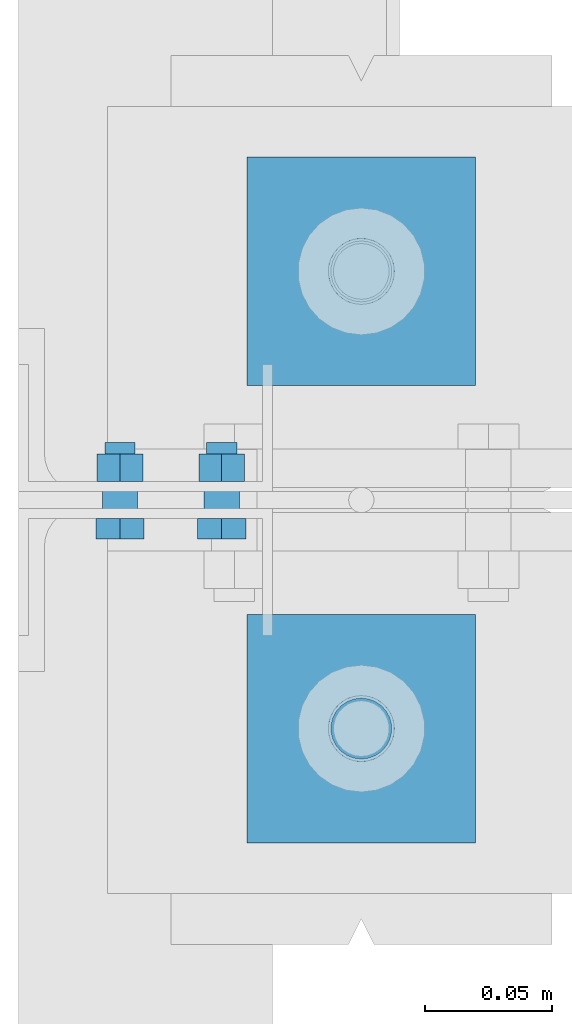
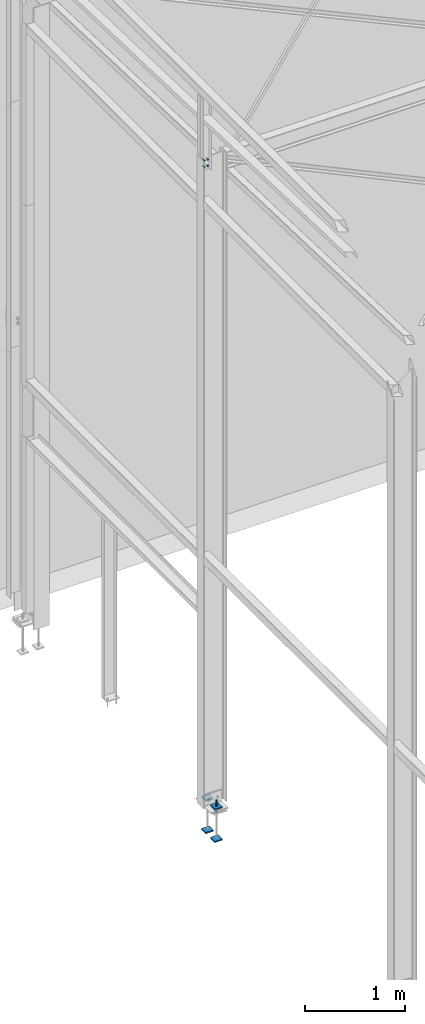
# One storey, part 73 of 123: 5 discrete accessories, 2 mechanical fasteners, 2 elements without a shape of their own.
"""IFC2X3 building model written with IfcOpenShell, lengths in millimetres."""

import ifcopenshell
import ifcopenshell.guid

model = None  # the IFC model being written
_history = None  # IfcOwnerHistory: only IFC2X3 demands one
_inside = {}  # id of a spatial element -> (the spatial element, [elements in it])
_under = {}  # id of a project, library or spatial element -> (it, [spatial elements below it])
_declared = {}  # id of a project -> (the project, [libraries it declares])
_typed = {}  # id of a type object -> (the type object, [elements of that type])
_made_of = {}  # id of a material, layer set ... -> (it, [elements and type objects made of it])


def new_model(schema):
    """Start an empty IFC model of exactly this schema.

    Asked for "IFC4X3", IfcOpenShell would pick the latest addendum, in which some entities
    have other attributes; the version numbers below select the first issue.
    IFC2X3 requires an IfcOwnerHistory on every rooted entity: one is made here for all.
    """
    global model, _history
    if schema == "IFC4X3":
        model = ifcopenshell.file(schema_version=(4, 3, 0, 0))
    else:
        model = ifcopenshell.file(schema=schema)
    _inside.clear()
    _under.clear()
    _declared.clear()
    _typed.clear()
    _made_of.clear()
    _history = None
    if model.schema == "IFC2X3":
        org = make("IfcOrganization", Name="unknown")
        user = make(
            "IfcPersonAndOrganization",
            ThePerson=make("IfcPerson", FamilyName="unknown"),
            TheOrganization=org,
        )
        app = make(
            "IfcApplication",
            ApplicationDeveloper=org,
            Version="unknown",
            ApplicationFullName="unknown",
            ApplicationIdentifier="unknown",
        )
        _history = make(
            "IfcOwnerHistory",
            OwningUser=user,
            OwningApplication=app,
            ChangeAction="ADDED",
            CreationDate=0,
        )
    return model


def make(cls, **values):
    """One entity of the class cls with the attributes given. An attribute that is None is left unset."""
    return model.create_entity(
        cls, **{name: value for name, value in values.items() if value is not None}
    )


def rooted(cls, **values):
    """An entity with a GlobalId (a new one), such as an element, a storey or a relation."""
    return make(cls, GlobalId=ifcopenshell.guid.new(), OwnerHistory=_history, **values)


def si_unit(unit_type, name, prefix=None):
    """IfcSIUnit, for example si_unit("LENGTHUNIT", "METRE", prefix="MILLI")."""
    return make("IfcSIUnit", UnitType=unit_type, Prefix=prefix, Name=name)


def assignment(units):
    """IfcUnitAssignment: the units of a project."""
    return None if units is None else make("IfcUnitAssignment", Units=units)


def point(xyz):
    """IfcCartesianPoint."""
    return None if xyz is None else make("IfcCartesianPoint", Coordinates=xyz)


def direction(xyz):
    """IfcDirection."""
    return None if xyz is None else make("IfcDirection", DirectionRatios=xyz)


def frame(location, z_axis=None, x_axis=None):
    """IfcAxis2Placement3D, a coordinate frame: its origin and axes. An axis left out is left unset."""
    return make(
        "IfcAxis2Placement3D",
        Location=point(location),
        Axis=direction(z_axis),
        RefDirection=direction(x_axis),
    )


def frame_2d(location, x_axis=None):
    """IfcAxis2Placement2D, a coordinate frame in the plane: its origin and x axis."""
    return make(
        "IfcAxis2Placement2D", Location=point(location), RefDirection=direction(x_axis)
    )


def origin_with_axes():
    """The frame at (0, 0, 0) with the z axis (0, 0, 1) and the x axis (1, 0, 0) written out."""
    return frame((0.0, 0.0, 0.0), z_axis=(0.0, 0.0, 1.0), x_axis=(1.0, 0.0, 0.0))


def origin_2d_with_axis():
    """The frame at (0, 0) in the plane with the x axis (1, 0) written out."""
    return frame_2d((0.0, 0.0), x_axis=(1.0, 0.0))


def place(relative_to, where):
    """IfcLocalPlacement: puts the frame where relative to a parent placement (None: the world)."""
    return make(
        "IfcLocalPlacement", PlacementRelTo=relative_to, RelativePlacement=where
    )


def context(
    kind, dimensions, precision=None, world=None, true_north=None, identifier=None
):
    """IfcGeometricRepresentationContext, for example the 3D "Model" context."""
    return make(
        "IfcGeometricRepresentationContext",
        ContextIdentifier=identifier,
        ContextType=kind,
        CoordinateSpaceDimension=dimensions,
        Precision=precision,
        WorldCoordinateSystem=world,
        TrueNorth=true_north,
    )


def subcontext(parent, identifier, kind, view, scale=None):
    """IfcGeometricRepresentationSubContext, for example "Body" below "Model"."""
    return make(
        "IfcGeometricRepresentationSubContext",
        ContextIdentifier=identifier,
        ContextType=kind,
        ParentContext=parent,
        TargetScale=scale,
        TargetView=view,
    )


def project(units=None, contexts=None):
    """IfcProject with its units and contexts."""
    return rooted(
        "IfcProject",
        Name="project",
        RepresentationContexts=contexts,
        UnitsInContext=assignment(units),
    )


def spatial(cls, under=None, at=None, **own):
    """A site, building, storey or space (cls), placed at a placement, below another one or the project."""
    s = rooted(cls, ObjectPlacement=at, **own)
    if under is not None:
        _under.setdefault(under.id(), (under, []))[1].append(s)
    return s


def polyline(points):
    """IfcPolyline through the points."""
    return make("IfcPolyline", Points=[point(p) for p in points])


def profile(cls, at=None, kind="AREA", **sizes):
    """A parametric profile (cls). Its sizes go by their IFC names, for example OverallWidth=200.0."""
    return make(cls, ProfileType=kind, Position=at, **sizes)


def circle(**sizes):
    """IfcCircleProfileDef."""
    return profile("IfcCircleProfileDef", **sizes)


def outline(outer, holes=None, kind="AREA"):
    """IfcArbitraryClosedProfileDef: a profile drawn as a closed curve; with holes, ...WithVoids."""
    if holes is None:
        return make("IfcArbitraryClosedProfileDef", ProfileType=kind, OuterCurve=outer)
    return make(
        "IfcArbitraryProfileDefWithVoids",
        ProfileType=kind,
        OuterCurve=outer,
        InnerCurves=holes,
    )


def extrude(swept, where, along, depth):
    """IfcExtrudedAreaSolid: the profile swept, set in the frame where, extruded along a direction by depth."""
    return make(
        "IfcExtrudedAreaSolid",
        SweptArea=swept,
        Position=where,
        ExtrudedDirection=direction(along),
        Depth=depth,
    )


def shape(context_of_items, identifier, shape_type, items):
    """IfcShapeRepresentation: the items that make up one representation, for example the "Body"."""
    return make(
        "IfcShapeRepresentation",
        ContextOfItems=context_of_items,
        RepresentationIdentifier=identifier,
        RepresentationType=shape_type,
        Items=items,
    )


def source(mapping_origin, context_of_items, identifier, shape_type, items):
    """IfcRepresentationMap: a shape defined once, which mapped items show again and again."""
    return make(
        "IfcRepresentationMap",
        MappingOrigin=mapping_origin,
        MappedRepresentation=shape(context_of_items, identifier, shape_type, items),
    )


def transform(
    local_origin,
    x_axis=None,
    y_axis=None,
    z_axis=None,
    scale=None,
    scale2=None,
    scale3=None,
    uniform=True,
):
    """IfcCartesianTransformationOperator3D, or its non-uniform kind. x_axis, y_axis, z_axis: its Axis1, 2, 3."""
    if uniform:
        return make(
            "IfcCartesianTransformationOperator3D",
            Axis1=direction(x_axis),
            Axis2=direction(y_axis),
            LocalOrigin=point(local_origin),
            Scale=scale,
            Axis3=direction(z_axis),
        )
    return make(
        "IfcCartesianTransformationOperator3DnonUniform",
        Axis1=direction(x_axis),
        Axis2=direction(y_axis),
        LocalOrigin=point(local_origin),
        Scale=scale,
        Axis3=direction(z_axis),
        Scale2=scale2,
        Scale3=scale3,
    )


def mapped(mapping_source, mapping_target):
    """IfcMappedItem: shows the shape of a source again, moved by a transform."""
    return make(
        "IfcMappedItem", MappingSource=mapping_source, MappingTarget=mapping_target
    )


def material(Name=None, Category=None):
    """IfcMaterial."""
    return make("IfcMaterial", Name=Name, Category=Category)


def made_of(thing, what):
    """Note that an element or type object is made of a material, layer set ...; save() writes the relation."""
    if what is not None:
        _made_of.setdefault(what.id(), (what, []))[1].append(thing)
    return thing


def type_object(cls, material=None, **own):
    """A type object (cls), such as IfcWallType, which elements share."""
    return made_of(rooted(cls, **own), material)


def element(
    cls,
    number,
    at=None,
    inside=None,
    cuts=None,
    type_object=None,
    material=None,
    context=None,
    identifier="Body",
    shape_type=None,
    held_by="IfcProductDefinitionShape",
    body=None,
    shapes=None,
    **own,
):
    """One element of the class cls, such as IfcWall. Its Tag is "e" and its number.

    at: its placement. inside: the storey or other place that contains it. cuts: it is an
    opening in that element (IfcRelVoidsElement). A single representation is given by context,
    identifier, shape_type and body (its items); several are given by shapes. held_by: the class
    of the entity that holds the representations. save() writes the other relations.
    """
    e = rooted(cls, Tag="e%d" % number, ObjectPlacement=at, **own)
    if body is not None:
        shapes = [shape(context, identifier, shape_type, body)]
    if shapes is not None:
        e.Representation = make(held_by, Representations=shapes)
    if inside is not None:
        _inside.setdefault(inside.id(), (inside, []))[1].append(e)
    if cuts is not None:
        rooted(
            "IfcRelVoidsElement", RelatingBuildingElement=cuts, RelatedOpeningElement=e
        )
    if type_object is not None:
        _typed.setdefault(type_object.id(), (type_object, []))[1].append(e)
    return made_of(e, material)


def aggregate(whole, parts):
    """IfcRelAggregates: a whole, such as a stair, and the parts it consists of."""
    return rooted("IfcRelAggregates", RelatingObject=whole, RelatedObjects=parts)


def save(model, path):
    """Write the relations noted so far, then the file.

    IfcRelAggregates (storeys below a building ...), IfcRelContainedInSpatialStructure (elements
    in a storey), IfcRelDefinesByType, IfcRelAssociatesMaterial and IfcRelDeclares: one each for
    every whole, place, type object, material and project.
    """
    for whole, parts in _under.values():
        aggregate(whole, parts)
    for where, things in _inside.values():
        rooted(
            "IfcRelContainedInSpatialStructure",
            RelatedElements=things,
            RelatingStructure=where,
        )
    for kind, things in _typed.values():
        rooted("IfcRelDefinesByType", RelatedObjects=things, RelatingType=kind)
    for what, things in _made_of.values():
        rooted("IfcRelAssociatesMaterial", RelatedObjects=things, RelatingMaterial=what)
    for by, libraries in _declared.values():
        rooted("IfcRelDeclares", RelatingContext=by, RelatedDefinitions=libraries)
    model.write(path)


model = new_model("IFC2X3")

# Units and contexts
model_context = context("Model", 3, precision=1e-05, world=origin_with_axes())
body_context = subcontext(model_context, "Body", "Model", "MODEL_VIEW")
ifc_project = project(units=[si_unit("LENGTHUNIT", "METRE", prefix="MILLI"), si_unit("AREAUNIT", "SQUARE_METRE"), si_unit("VOLUMEUNIT", "CUBIC_METRE"), si_unit("MASSUNIT", "GRAM", prefix="KILO"), si_unit("TIMEUNIT", "SECOND"), si_unit("PLANEANGLEUNIT", "RADIAN"), si_unit("SOLIDANGLEUNIT", "STERADIAN"), si_unit("THERMODYNAMICTEMPERATUREUNIT", "DEGREE_CELSIUS"), si_unit("LUMINOUSINTENSITYUNIT", "LUMEN")], contexts=[model_context])

# Site, building, storey
site_placement = place(None, origin_with_axes())
site = spatial("IfcSite", under=ifc_project, at=site_placement, Name="Undefined", CompositionType="ELEMENT")
building_placement = place(site_placement, origin_with_axes())
building = spatial("IfcBuilding", under=site, at=building_placement, Name="Undefined", CompositionType="ELEMENT")
storey_placement = place(building_placement, origin_with_axes())
storey = spatial("IfcBuildingStorey", under=building, at=storey_placement, Name="Undefined", CompositionType="ELEMENT", Elevation=0.0)

# Assembly, mechanical fastener
assembly_1_placement = place(storey_placement, origin_with_axes())
assembly_1 = element("IfcElementAssembly", 1, at=assembly_1_placement, inside=storey, Name="Steel Assembly", AssemblyPlace="NOTDEFINED", PredefinedType="RIGID_FRAME")
ifc_material_1 = material(Name="8.8-SB-Z")
discrete_accessory_type_1 = type_object("IfcDiscreteAccessoryType", Name="Bolt assembly")
shared_shape_1 = source(origin_with_axes(), body_context, "Body", "SweptSolid", [
    extrude(circle(Radius=7.0, at=origin_2d_with_axis()), frame((0.0, -3.29999995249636, 0.0), z_axis=(0.0, 1.0, 0.0), x_axis=(1.0, 0.0, 0.0)), (0.0, 0.0, 1.0), 6.6),
    extrude(circle(Radius=7.0, at=origin_2d_with_axis()), frame((0.0, 3.19999995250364, 0.0), z_axis=(0.0, 1.0, 0.0), x_axis=(1.0, 0.0, 0.0)), (0.0, 0.0, 1.0), 4.1),
    extrude(circle(Radius=7.0, at=origin_2d_with_axis()), frame((0.0, -7.1999999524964, 0.0), z_axis=(0.0, 1.0, 0.0), x_axis=(1.0, 0.0, 0.0)), (0.0, 0.0, 1.0), 4.0),
    extrude(outline(polyline([(10.96965511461, 0.0), (5.484827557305, 9.50000000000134), (-5.484827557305, 9.50000000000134), (-10.96965511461, 0.0), (-5.484827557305, -9.50000000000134), (5.484827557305, -9.50000000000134), (10.96965511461, 0.0)])), frame((0.0, -15.2999999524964, 0.0), z_axis=(0.0, 1.0, 0.0), x_axis=(1.0, 0.0, 0.0)), (0.0, 0.0, 1.0), 8.0),
    extrude(circle(Radius=6.0, at=origin_2d_with_axis()), frame((0.0, -7.29999995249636, 0.0), z_axis=(0.0, 1.0, 0.0), x_axis=(1.0, 0.0, 0.0)), (0.0, 0.0, 1.0), 30.0),
    extrude(outline(polyline([(10.39230484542, 0.0), (5.19615242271, 9.00000000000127), (-5.19615242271, 9.00000000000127), (-10.39230484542, 0.0), (-5.19615242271, -9.00000000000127), (5.19615242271, -9.00000000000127), (10.39230484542, 0.0)])), frame((0.0, 7.29999995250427, 0.0), z_axis=(0.0, 1.0, 0.0), x_axis=(1.0, 0.0, 0.0)), (0.0, 0.0, 1.0), 10.8),
])
mechanical_fastener_1_placement = place(assembly_1_placement, frame((-120.000001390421, 11400.0, 7570.0013155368), z_axis=(-1.0, 0.0, 0.0), x_axis=(0.0, 0.0, 1.0)))
mechanical_fastener_1 = element("IfcMechanicalFastener", 2, at=mechanical_fastener_1_placement, type_object=discrete_accessory_type_1, material=ifc_material_1, Name="Bolt assembly", NominalDiameter=12.0, NominalLength=30.0, context=body_context, shape_type="MappedRepresentation", body=[
    mapped(shared_shape_1, transform((0.0, 0.0, -20.0))),
    mapped(shared_shape_1, transform((80.0, 0.0, -20.0))),
    mapped(shared_shape_1, transform((0.0, 0.0, 20.0))),
    mapped(shared_shape_1, transform((80.0, 0.0, 20.0))),
])
aggregate(assembly_1, [mechanical_fastener_1])

# Assembly, mechanical fastener, discrete accessories
assembly_2_placement = place(storey_placement, origin_with_axes())
assembly_2 = element("IfcElementAssembly", 3, at=assembly_2_placement, inside=storey, Name="Steel Assembly", AssemblyPlace="NOTDEFINED", PredefinedType="RIGID_FRAME")
ifc_material_2 = material(Name="6.8")
shared_shape_2 = source(origin_with_axes(), body_context, "Body", "SweptSolid", [
    extrude(circle(Radius=13.0, at=origin_2d_with_axis()), frame((0.0, 0.0, 0.0), z_axis=(0.0, 1.0, 0.0), x_axis=(1.0, 0.0, 0.0)), (0.0, 0.0, 1.0), 10.1),
])
mechanical_fastener_2_placement = place(assembly_2_placement, frame((-45.0, 11400.0000000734, -250.0), z_axis=(0.0, -1.0, 0.0), x_axis=(-1.0, 0.0, 0.0)))
mechanical_fastener_2 = element("IfcMechanicalFastener", 4, at=mechanical_fastener_2_placement, type_object=discrete_accessory_type_1, material=ifc_material_2, Name="Bolt assembly", NominalDiameter=24.0, NominalLength=10.0, context=body_context, shape_type="MappedRepresentation", body=[
    mapped(shared_shape_2, transform((-4.00177668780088e-11, 0.0, -90.0))),
    mapped(shared_shape_2, transform((4.00177668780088e-11, 0.0, 90.0))),
])
ifc_material_3 = material(Name="STEEL/S235-E24")
discrete_accessory_type_2 = type_object("IfcDiscreteAccessoryType", Name="PLAQUETTE")
discrete_accessory_1_placement = place(assembly_2_placement, frame((0.0, 11354.9971504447, -227.5), z_axis=(0.0, 0.0, 1.0), x_axis=(-1.0, 0.0, 0.0)))
discrete_accessory_1 = element("IfcDiscreteAccessory", 5, at=discrete_accessory_1_placement, type_object=discrete_accessory_type_2, material=ifc_material_3, Name="PLAQUETTE", ObjectType="PL15*90", context=body_context, shape_type="SweptSolid", body=[
    extrude(outline(polyline([(0.0, 0.0), (90.0, 0.0), (90.0, 90.0), (0.0, 90.0), (0.0, 0.0)])), frame((0.0, 0.0, -7.5), z_axis=(0.0, 0.0, 1.0), x_axis=(1.0, 0.0, 0.0)), (0.0, 0.0, 1.0), 15.0),
])
discrete_accessory_2_placement = place(assembly_2_placement, frame((0.0, 11534.9971504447, -227.5), z_axis=(0.0, 0.0, 1.0), x_axis=(-1.0, 0.0, 0.0)))
discrete_accessory_2 = element("IfcDiscreteAccessory", 6, at=discrete_accessory_2_placement, type_object=discrete_accessory_type_2, material=ifc_material_3, Name="PLAQUETTE", ObjectType="PL15*90", context=body_context, shape_type="SweptSolid", body=[
    extrude(outline(polyline([(0.0, 0.0), (90.0, 0.0), (90.0, 90.0), (0.0, 90.0), (0.0, 0.0)])), frame((0.0, 0.0, -7.5), z_axis=(0.0, 0.0, 1.0), x_axis=(1.0, 0.0, 0.0)), (0.0, 0.0, 1.0), 15.0),
])
discrete_accessory_3_placement = place(assembly_2_placement, frame((0.0, 11354.9971504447, -622.5), z_axis=(0.0, 0.0, 1.0), x_axis=(-1.0, 0.0, 0.0)))
discrete_accessory_3 = element("IfcDiscreteAccessory", 7, at=discrete_accessory_3_placement, type_object=discrete_accessory_type_2, material=ifc_material_3, Name="PLAQUETTE", ObjectType="PL15*90", context=body_context, shape_type="SweptSolid", body=[
    extrude(outline(polyline([(0.0, 0.0), (90.0, 0.0), (90.0, 90.0), (0.0, 90.0), (0.0, 0.0)])), frame((0.0, 0.0, -7.5), z_axis=(0.0, 0.0, 1.0), x_axis=(1.0, 0.0, 0.0)), (0.0, 0.0, 1.0), 15.0),
])
discrete_accessory_4_placement = place(assembly_2_placement, frame((0.0, 11534.9971504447, -622.5), z_axis=(0.0, 0.0, 1.0), x_axis=(-1.0, 0.0, 0.0)))
discrete_accessory_4 = element("IfcDiscreteAccessory", 8, at=discrete_accessory_4_placement, type_object=discrete_accessory_type_2, material=ifc_material_3, Name="PLAQUETTE", ObjectType="PL15*90", context=body_context, shape_type="SweptSolid", body=[
    extrude(outline(polyline([(0.0, 0.0), (90.0, 0.0), (90.0, 90.0), (0.0, 90.0), (0.0, 0.0)])), frame((0.0, 0.0, -7.5), z_axis=(0.0, 0.0, 1.0), x_axis=(1.0, 0.0, 0.0)), (0.0, 0.0, 1.0), 15.0),
])
discrete_accessory_type_3 = type_object("IfcDiscreteAccessoryType", Name="TIGE D'ANCRAGE")
discrete_accessory_5_placement = place(assembly_2_placement, frame((-45.0, 11309.9971504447, -150.0), z_axis=(-1.0, 0.0, 0.0), x_axis=(0.0, 0.0, -1.0)))
discrete_accessory_5 = element("IfcDiscreteAccessory", 9, at=discrete_accessory_5_placement, type_object=discrete_accessory_type_3, material=ifc_material_3, Name="TIGE D'ANCRAGE", ObjectType="D24", context=body_context, shape_type="SweptSolid", body=[
    extrude(circle(Radius=12.0, at=origin_2d_with_axis()), frame((150.0, 0.0, 0.0), z_axis=(-1.0, 0.0, 0.0), x_axis=(0.0, -1.0, 0.0)), (0.0, 0.0, 1.0), 150.0),
])
aggregate(assembly_2, [mechanical_fastener_2, discrete_accessory_1, discrete_accessory_2, discrete_accessory_3, discrete_accessory_4, discrete_accessory_5])

save(model, "model.ifc")
